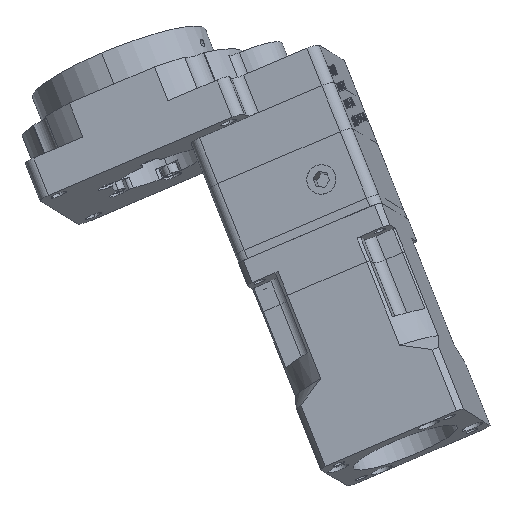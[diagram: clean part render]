
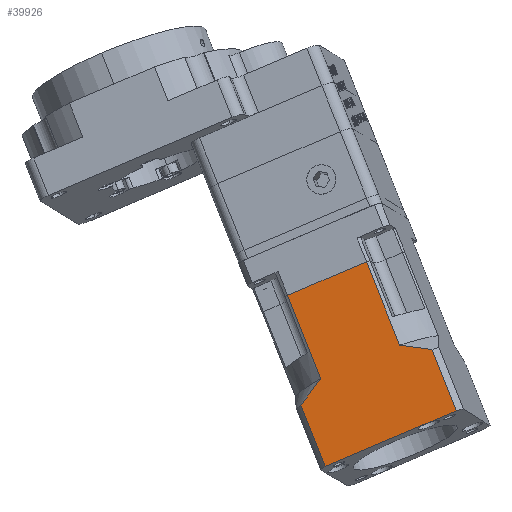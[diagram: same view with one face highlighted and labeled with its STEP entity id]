
A CAD part, top view. The second image highlights one B-rep face of the part: STEP entity #39926.
In plain terms, the highlighted planar face has unit normal (-0.186, 0.112, 0.976) as drawn and (0, -1, 0) by its records, which use the part's own axes.
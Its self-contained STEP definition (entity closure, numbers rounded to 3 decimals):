
#96 = CARTESIAN_POINT ( 'NONE',  ( -19.268, -21., 86.5 ) ) ;
#113 = CARTESIAN_POINT ( 'NONE',  ( -19.268, -21., 86.5 ) ) ;
#2085 = EDGE_CURVE ( 'NONE', #50648, #32805, #24811, .T. ) ;
#2222 = CARTESIAN_POINT ( 'NONE',  ( -11.619, -21., 86.5 ) ) ;
#3131 = VERTEX_POINT ( 'NONE', #30475 ) ;
#5496 = CARTESIAN_POINT ( 'NONE',  ( -19.268, -21., 0. ) ) ;
#5745 = VERTEX_POINT ( 'NONE', #5496 ) ;
#5907 = EDGE_CURVE ( 'NONE', #5745, #13866, #24473, .T. ) ;
#6208 = DIRECTION ( 'NONE',  ( 0., 0., 1. ) ) ;
#7138 = CARTESIAN_POINT ( 'NONE',  ( -19.268, -21., 18. ) ) ;
#8085 = LINE ( 'NONE', #37812, #38508 ) ;
#8097 = DIRECTION ( 'NONE',  ( 0., 1., 0. ) ) ;
#10324 = EDGE_CURVE ( 'NONE', #32805, #44842, #48462, .T. ) ;
#11510 = CARTESIAN_POINT ( 'NONE',  ( 19.268, -21., 18. ) ) ;
#11687 = CARTESIAN_POINT ( 'NONE',  ( 18.04, -21., 18.83 ) ) ;
#11865 = CARTESIAN_POINT ( 'NONE',  ( 16.795, -21., 19.63 ) ) ;
#12032 = CARTESIAN_POINT ( 'NONE',  ( 11.619, -21., 22.5 ) ) ;
#12644 = CARTESIAN_POINT ( 'NONE',  ( 12.955, -21., 21.853 ) ) ;
#12758 = CARTESIAN_POINT ( 'NONE',  ( 14.252, -21., 21.141 ) ) ;
#13038 = CARTESIAN_POINT ( 'NONE',  ( 19.268, -21., 0. ) ) ;
#13866 = VERTEX_POINT ( 'NONE', #38185 ) ;
#14246 = VECTOR ( 'NONE', #22977, 1000. ) ;
#14582 = LINE ( 'NONE', #2222, #34277 ) ;
#15637 = CARTESIAN_POINT ( 'NONE',  ( 19.268, -21., 86.5 ) ) ;
#17488 = ORIENTED_EDGE ( 'NONE', *, *, #10324, .F. ) ;
#18003 = CARTESIAN_POINT ( 'NONE',  ( -11.619, -21., 47. ) ) ;
#18458 = EDGE_CURVE ( 'NONE', #29890, #5745, #27345, .T. ) ;
#19036 = DIRECTION ( 'NONE',  ( -1., 0., 0. ) ) ;
#19140 = EDGE_CURVE ( 'NONE', #44842, #29890, #31537, .T. ) ;
#19346 = CARTESIAN_POINT ( 'NONE',  ( -16.795, -21., 19.63 ) ) ;
#22977 = DIRECTION ( 'NONE',  ( 0., 0., -1. ) ) ;
#23180 = ORIENTED_EDGE ( 'NONE', *, *, #27650, .F. ) ;
#23307 = CARTESIAN_POINT ( 'NONE',  ( -12.955, -21., 21.853 ) ) ;
#23348 = CARTESIAN_POINT ( 'NONE',  ( 11.619, -21., 22.5 ) ) ;
#24473 = LINE ( 'NONE', #96, #44169 ) ;
#24811 = LINE ( 'NONE', #25168, #14246 ) ;
#24873 = EDGE_CURVE ( 'NONE', #45228, #50648, #8085, .T. ) ;
#25168 = CARTESIAN_POINT ( 'NONE',  ( 11.619, -21., 86.5 ) ) ;
#27000 = ORIENTED_EDGE ( 'NONE', *, *, #42088, .F. ) ;
#27043 = ORIENTED_EDGE ( 'NONE', *, *, #19140, .F. ) ;
#27345 = LINE ( 'NONE', #34262, #47069 ) ;
#27650 = EDGE_CURVE ( 'NONE', #13866, #3131, #44381, .T. ) ;
#27830 = ORIENTED_EDGE ( 'NONE', *, *, #2085, .F. ) ;
#28044 = ORIENTED_EDGE ( 'NONE', *, *, #24873, .F. ) ;
#28400 = DIRECTION ( 'NONE',  ( 0., 0., 1. ) ) ;
#29890 = VERTEX_POINT ( 'NONE', #13038 ) ;
#30475 = CARTESIAN_POINT ( 'NONE',  ( -11.619, -21., 22.5 ) ) ;
#31537 = LINE ( 'NONE', #15637, #42077 ) ;
#32395 = CARTESIAN_POINT ( 'NONE',  ( 19.268, -21., 18. ) ) ;
#32805 = VERTEX_POINT ( 'NONE', #23348 ) ;
#33830 = FACE_OUTER_BOUND ( 'NONE', #37395, .T. ) ;
#34262 = CARTESIAN_POINT ( 'NONE',  ( -19.268, -21., 0. ) ) ;
#34277 = VECTOR ( 'NONE', #6208, 1000. ) ;
#35883 = DIRECTION ( 'NONE',  ( -1., 0., 0. ) ) ;
#37395 = EDGE_LOOP ( 'NONE', ( #23180, #50852, #41883, #27043, #17488, #27830, #28044, #27000 ) ) ;
#37812 = CARTESIAN_POINT ( 'NONE',  ( 0., -21., 47. ) ) ;
#38185 = CARTESIAN_POINT ( 'NONE',  ( -19.268, -21., 18. ) ) ;
#38508 = VECTOR ( 'NONE', #41968, 1000. ) ;
#38924 = CARTESIAN_POINT ( 'NONE',  ( -18.04, -21., 18.83 ) ) ;
#39926 = ADVANCED_FACE ( 'NONE', ( #33830 ), #43636, .F. ) ;
#40130 = CARTESIAN_POINT ( 'NONE',  ( 11.619, -21., 47. ) ) ;
#41883 = ORIENTED_EDGE ( 'NONE', *, *, #18458, .F. ) ;
#41968 = DIRECTION ( 'NONE',  ( 1., 0., 0. ) ) ;
#42077 = VECTOR ( 'NONE', #43222, 1000. ) ;
#42088 = EDGE_CURVE ( 'NONE', #3131, #45228, #14582, .T. ) ;
#43222 = DIRECTION ( 'NONE',  ( 0., 0., -1. ) ) ;
#43636 = PLANE ( 'NONE',  #45325 ) ;
#44169 = VECTOR ( 'NONE', #28400, 1000. ) ;
#44381 = B_SPLINE_CURVE_WITH_KNOTS ( 'NONE', 3,
 ( #7138, #38924, #19346, #46877, #23307, #50776 ),
 .UNSPECIFIED., .F., .F.,
 ( 4, 2, 4 ),
 ( 0., 0.004, 0.009 ),
 .UNSPECIFIED. ) ;
#44842 = VERTEX_POINT ( 'NONE', #32395 ) ;
#45228 = VERTEX_POINT ( 'NONE', #18003 ) ;
#45325 = AXIS2_PLACEMENT_3D ( 'NONE', #113, #8097, #35883 ) ;
#46877 = CARTESIAN_POINT ( 'NONE',  ( -14.252, -21., 21.141 ) ) ;
#47069 = VECTOR ( 'NONE', #19036, 1000. ) ;
#48462 = B_SPLINE_CURVE_WITH_KNOTS ( 'NONE', 3,
 ( #12032, #12644, #12758, #11865, #11687, #11510 ),
 .UNSPECIFIED., .F., .F.,
 ( 4, 2, 4 ),
 ( 0., 0.004, 0.009 ),
 .UNSPECIFIED. ) ;
#50648 = VERTEX_POINT ( 'NONE', #40130 ) ;
#50776 = CARTESIAN_POINT ( 'NONE',  ( -11.619, -21., 22.5 ) ) ;
#50852 = ORIENTED_EDGE ( 'NONE', *, *, #5907, .F. ) ;
